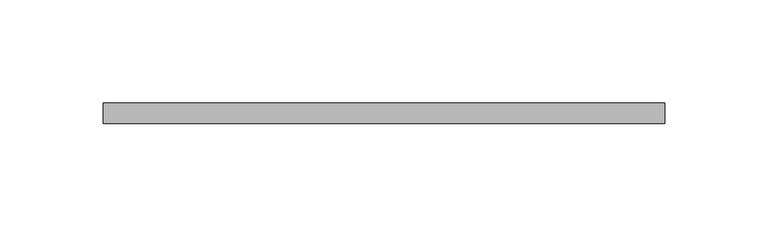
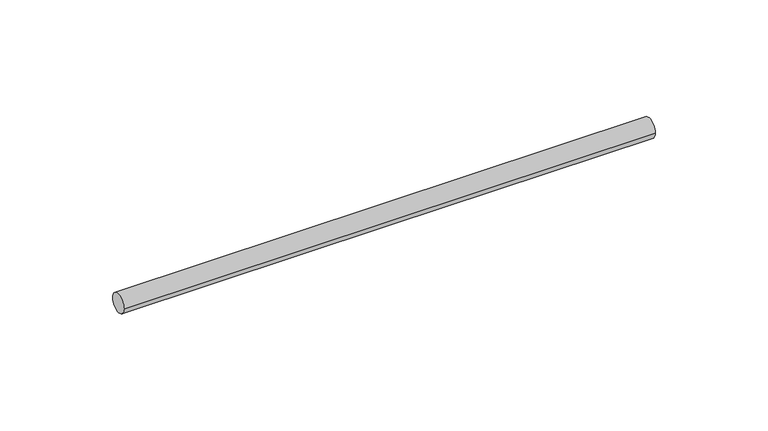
"""IFC4 building model written with IfcOpenShell, lengths in millimetres: valve geometry, Superfix Threaded Rod (used for clamps) : Threaded Rod  Extra  - 1000 mm (used for clamps)."""

from ifc_helpers import new_model, si_unit, point, frame, origin, origin_2d, place, context, project, spatial, circle_curve, trimmed, segment, composite_curve, outline, extrude, source, transform, mapped, element, save


def valve_1d0ad1b5(model_context):
    return source(origin(), model_context, "Body", "SweptSolid", [
        extrude(outline(composite_curve([segment(trimmed(circle_curve(origin_2d(), 5.0), [point((-5.0, 0.0))], [point((5.0, 0.0))], False, "CARTESIAN"), True, "CONTINUOUS"), segment(trimmed(circle_curve(origin_2d(), 5.0), [point((5.0, 0.0))], [point((-5.0, 0.0))], False, "CARTESIAN"), True, "CONTINUOUS")], self_intersect=False)), frame((-10.0, 0.0, 0.0), z_axis=(1.0, 0.0, 0.0), x_axis=(0.0, 1.0, 0.0)), (0.0, 0.0, 1.0), 272.0),
    ])


if __name__ == "__main__":
    model = new_model("IFC4")
    model_context = context("Model", 3, world=origin())
    ifc_project = project(units=[si_unit("LENGTHUNIT", "METRE", prefix="MILLI")], contexts=[model_context])
    site = spatial("IfcSite", under=ifc_project)
    building = spatial("IfcBuilding", under=site)
    placement = place(None, origin())
    valve_shape = valve_1d0ad1b5(model_context)
    element("IfcValve", 1, ObjectType="Superfix Threaded Rod (used for clamps) : Threaded Rod  Extra  - 1000 mm (used for clamps)", at=placement, inside=building, context=model_context, shape_type="MappedRepresentation", body=[
        mapped(valve_shape, transform((0.0, 0.0, 0.0), x_axis=(1.0, 0.0, 0.0), y_axis=(0.0, 1.0, 0.0), z_axis=(0.0, 0.0, 1.0))),
    ])
    save(model, "model.ifc")
